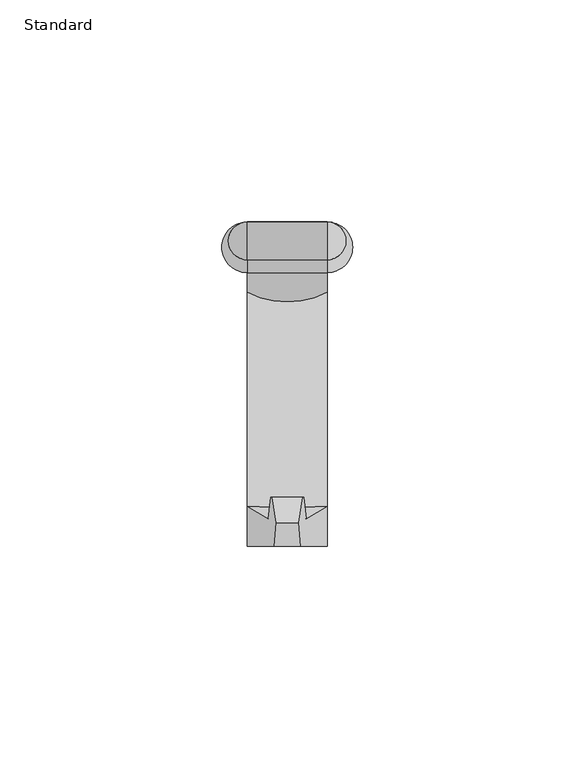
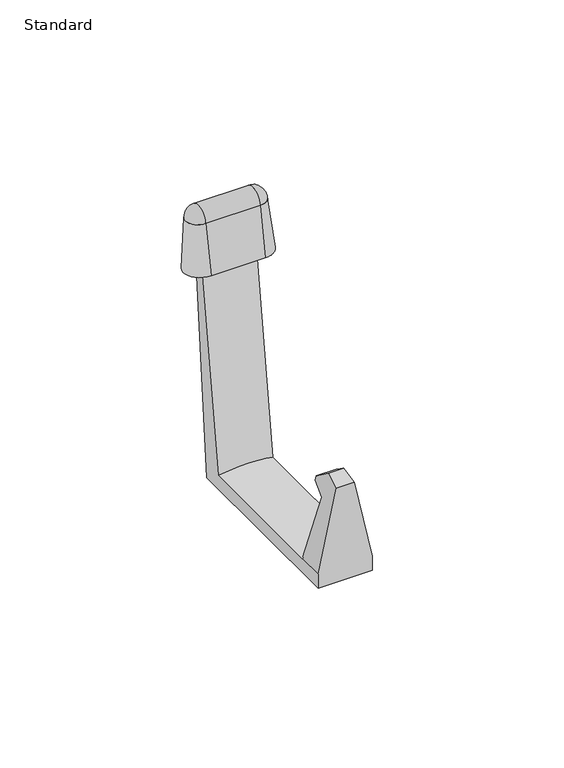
"""IFC4 building model written with IfcOpenShell, lengths in millimetres: furniture geometry, X_Partition-Robe Hook-Duracube-Door Stop : Standard."""

from ifc_helpers import new_model, si_unit, point, frame, origin, place, context, project, spatial, polyline, circle_curve, ellipse_curve, trimmed, source, transform, mapped, element, save
from ifc_brep_helpers import plane_surface, cylinder_surface, revolved_surface, advanced_brep


def standard_dd65e5c9(model_context):
    return source(origin(), model_context, "Body", "AdvancedBrep", [
        advanced_brep(
        [(9.0, 20.6732168, 5.0), (-9.0, 20.6732168, 5.0), (-9.0, -27.4995567, 5.0), (8.9985088, -27.4996746, 5.0008976), (-9.0, 32.2994412, 87.7248847), (9.0, 32.2994412, 87.7248847), (9.0, 35.1400061, 87.3256694), (-9.0, 35.1400061, 87.3256694), (9.0, 27.5, 0.0), (-9.0, 27.5, 0.0), (9.0, -36.5, 5.0033753), (9.0, -36.5, 0.0), (-9.0, -36.5, 0.0), (-9.0, -36.5, 5.0), (2.911861, -36.5, 33.0), (-2.9118145, -36.5, 33.0), (-4.3052364, -30.3351791, 26.5915532), (4.3054402, -30.3351791, 26.5915532), (-3.7029476, -25.5374517, 29.3615225), (3.7030834, -25.5374517, 29.3615225), (-3.3767948, -25.5374517, 30.8615225), (3.3768938, -25.5374517, 30.8615225), (-2.5, -31.2963756, 34.8939644), (2.5, -31.2963756, 34.8939644)],
        [
            (0, 1, ellipse_curve(frame((0.0, 33.6690536, -9.95), z_axis=(0.0, -0.7547095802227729, -0.6560590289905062), x_axis=(0.0, -0.6560590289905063, 0.7547095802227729)), 23.1214767, 17.45)),
            (1, 2),
            (2, 3, ellipse_curve(frame((0.0, -25.5361707, -9.95), z_axis=(0.0, 0.9914861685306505, 0.1302120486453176), x_axis=(0.0, -0.13021204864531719, 0.9914861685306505)), 17.5998421, 17.45)),
            (3, 0),
            (4, 5, circle_curve(frame((0.0, 47.1039488, 85.6442469), z_axis=(0.0, 0.13917310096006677, 0.9902680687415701), x_axis=(0.0, -0.9902680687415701, 0.13917310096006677)), 17.45)),
            (5, 6),
            (6, 7),
            (7, 4),
            (0, 5),
            (4, 1),
            (6, 8),
            (8, 9),
            (9, 7),
            (3, 10),
            (10, 11),
            (11, 8),
            (12, 13),
            (13, 2),
            (9, 12),
            (12, 11),
            (10, 14),
            (14, 15),
            (15, 13),
            (16, 17),
            (17, 3),
            (2, 16),
            (16, 18),
            (18, 19),
            (19, 17),
            (18, 20),
            (20, 21),
            (21, 19),
            (20, 22),
            (22, 23),
            (23, 21),
            (14, 23),
            (22, 15),
        ],
        [
            cylinder_surface(frame((0.0, -29.3271864, -9.95), z_axis=(0.0, -1.0, 0.0), x_axis=(0.0, 0.0, 1.0)), 17.45),
            plane_surface(frame((0.0, 29.823771, 88.0728175), z_axis=(0.0, 0.13917310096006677, 0.9902680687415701), x_axis=(1.0, 0.0, 0.0))),
            cylinder_surface(frame((0.0, 35.7801778, 5.0714294), z_axis=(0.0, -0.13917310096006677, -0.9902680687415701), x_axis=(0.0, -0.9902680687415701, 0.13917310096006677)), 17.45),
            plane_surface(frame((9.0, 27.5, 0.0), z_axis=(0.0, 0.9961946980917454, -0.08715574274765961), x_axis=(-1.0, 0.0, 0.0))),
            plane_surface(frame((9.0, -36.5, 0.0), z_axis=(1.0, 0.0, 0.0), x_axis=(0.0, 0.0, -1.0))),
            plane_surface(frame((-9.0, -36.5, 0.0), z_axis=(-1.0, 0.0, 0.0), x_axis=(0.0, 0.0, 1.0))),
            plane_surface(frame((9.0, -36.5, 33.0), z_axis=(0.0, -1.0, 0.0), x_axis=(-1.0, 0.0, 0.0))),
            plane_surface(frame((9.0, -36.5, 0.0), z_axis=(0.0, 0.0, -1.0), x_axis=(-1.0, 0.0, 0.0))),
            plane_surface(frame((9.0, -27.5, 5.0033753), z_axis=(0.0, 0.9914861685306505, 0.1302120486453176), x_axis=(-1.0, 0.0, 0.0))),
            plane_surface(frame((9.0, -30.3351791, 26.5915532), z_axis=(0.0, 0.49999999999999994, -0.8660254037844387), x_axis=(-1.0, 0.0, 0.0))),
            plane_surface(frame((9.0, -25.5374517, 29.3615225), z_axis=(0.0, 1.0, 0.0), x_axis=(-1.0, 0.0, 0.0))),
            plane_surface(frame((9.0, -25.5374517, 30.8615225), z_axis=(0.0, 0.5735764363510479, 0.8191520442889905), x_axis=(-1.0, 0.0, 0.0))),
            plane_surface(frame((9.0, -31.2963756, 34.8939644), z_axis=(0.0, -0.34202014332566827, 0.9396926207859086), x_axis=(-1.0, 0.0, 0.0))),
            plane_surface(frame((2.5, -43.6239531, 34.8939644), z_axis=(0.977162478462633, 0.0, 0.2124935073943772), x_axis=(0.0, 1.0, 0.0))),
            plane_surface(frame((-9.0, -43.6239531, 5.0), z_axis=(-0.9771674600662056, 0.0, 0.2124705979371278), x_axis=(0.0, 1.0, 0.0))),
        ],
        [
            (0, [[1, 2, 3, 4]]),
            (1, [[5, 6, 7, 8]]),
            (2, [[-1, 9, -5, 10]]),
            (3, [[11, 12, 13, -7]]),
            (4, [[-11, -6, -9, -4, 14, 15, 16]]),
            (5, [[17, 18, -2, -10, -8, -13, 19]]),
            (6, [[20, -15, 21, 22, 23, -17]]),
            (7, [[-16, -20, -19, -12]]),
            (8, [[24, 25, -3, 26]]),
            (9, [[-24, 27, 28, 29]]),
            (10, [[-28, 30, 31, 32]]),
            (11, [[-31, 33, 34, 35]]),
            (12, [[-22, 36, -34, 37]]),
            (13, [[-21, -14, -25, -29, -32, -35, -36]]),
            (14, [[-18, -23, -37, -33, -30, -27, -26]]),
        ],
    ),
        advanced_brep(
        [(-9.0, 36.4341465, 88.2239526), (9.0, 36.4341465, 88.2239526), (9.0, 28.0061564, 88.9421143), (-9.0, 28.0061564, 88.9421143)],
        [
            (0, 1),
            (1, 2, circle_curve(frame((9.0, 32.2201515, 88.5830334), z_axis=(0.0, -0.08490381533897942, -0.9963891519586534), x_axis=(0.0, 0.9963891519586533, -0.08490381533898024)), 4.2292663)),
            (2, 3),
            (3, 0, circle_curve(frame((-9.0, 32.2201515, 88.5830334), z_axis=(0.0, -0.0849038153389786, -0.9963891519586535), x_axis=(0.0, 0.9963891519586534, -0.08490381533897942)), 4.2292663)),
            (0, 3, circle_curve(frame((-9.0, 32.2201515, 88.5830334), z_axis=(1.0, 0.0, 0.0), x_axis=(0.0, -0.9963891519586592, 0.08490381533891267)), 4.2292663)),
            (2, 1, circle_curve(frame((9.0, 32.2201515, 88.5830334), z_axis=(-1.0, 0.0, 0.0), x_axis=(0.0, -0.9963891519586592, 0.08490381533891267)), 4.2292663)),
        ],
        [
            plane_surface(frame((-9.0, 36.4341465, 88.2239526), z_axis=(0.0, -0.08490381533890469, -0.9963891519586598), x_axis=(1.0, 0.0, 0.0))),
            cylinder_surface(frame((9.0, 32.2201515, 88.5830334), z_axis=(-1.0000000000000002, 0.0, 0.0), x_axis=(0.0, -0.9963891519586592, 0.08490381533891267)), 4.2292663),
            revolved_surface(trimmed(ellipse_curve(frame((-9.0, 32.2201515, 88.5830334), z_axis=(0.0, -0.0849038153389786, -0.9963891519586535), x_axis=(0.0, 0.9963891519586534, -0.08490381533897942)), 4.2292663, 4.2292663), [point((-9.0, 28.0061564, 88.9421143))], [point((-9.0, 36.4341465, 88.2239526))], True, "CARTESIAN"), (-9.0, 36.4341465, 88.2239526), (0.0, 0.9963891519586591, -0.08490381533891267)),
            revolved_surface(trimmed(ellipse_curve(frame((9.0, 32.2201515, 88.5830334), z_axis=(0.0, -0.08490381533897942, -0.9963891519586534), x_axis=(0.0, 0.9963891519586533, -0.08490381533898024)), 4.2292663, 4.2292663), [point((9.0, 36.4341465, 88.2239526))], [point((9.0, 28.0061564, 88.9421143))], True, "CARTESIAN"), (9.0, 36.4341465, 88.2239526), (0.0, -0.9963891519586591, 0.08490381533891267)),
        ],
        [
            (0, [[1, 2, 3, 4]]),
            (1, [[-1, 5, -3, 6]]),
            (2, [[-4, -5]]),
            (3, [[-2, -6]]),
        ],
    ),
        advanced_brep(
        [(9.0, 36.4341465, 88.2239526), (-9.0, 36.4341465, 88.2239526), (-9.0, 28.0061564, 88.9421143), (9.0, 28.0061564, 88.9421143), (9.0, 36.5, 71.3297259), (9.0, 25.0828424, 72.302599), (-9.0, 25.0828424, 72.302599), (-9.0, 36.5, 71.3297259)],
        [
            (0, 1),
            (1, 2, circle_curve(frame((-9.0, 32.2201515, 88.5830334), z_axis=(0.0, 0.08490381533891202, 0.9963891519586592), x_axis=(0.0, 0.9963891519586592, -0.08490381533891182)), 4.2292663)),
            (2, 3),
            (3, 0, circle_curve(frame((9.0, 32.2201515, 88.5830334), z_axis=(0.0, 0.08490381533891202, 0.9963891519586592), x_axis=(0.0, -0.996389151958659, 0.08490381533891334)), 4.2292663)),
            (4, 5, circle_curve(frame((9.0, 30.7914212, 71.8161624), z_axis=(0.0, -0.08490381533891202, -0.9963891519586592), x_axis=(0.0, -0.996389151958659, 0.08490381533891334)), 5.7292663)),
            (5, 6),
            (6, 7, circle_curve(frame((-9.0, 30.7914212, 71.8161624), z_axis=(0.0, -0.08490381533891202, -0.9963891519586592), x_axis=(0.0, 0.9963891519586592, -0.08490381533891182)), 5.7292663)),
            (7, 4),
            (7, 1),
            (0, 4),
            (6, 2),
            (5, 3),
        ],
        [
            plane_surface(frame((0.0, 32.2201515, 88.5830334), z_axis=(0.0, 0.08490381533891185, 0.9963891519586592), x_axis=(1.0, 0.0, 0.0))),
            plane_surface(frame((0.0, 30.7914212, 71.8161624), z_axis=(0.0, -0.08490381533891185, -0.9963891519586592), x_axis=(1.0, 0.0, 0.0))),
            plane_surface(frame((0.0, 36.5, 71.3297259), z_axis=(0.0, 0.9999924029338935, 0.0038979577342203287), x_axis=(-1.0, 0.0, 0.0))),
            revolved_surface(polyline([(-9.0, 36.43414651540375, 88.2239526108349), (-9.0, 36.50000000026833, 71.32972583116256)]), (-9.0, 36.2484719, 135.8574084), (0.0, -0.08490381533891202, -0.9963891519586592)),
            plane_surface(frame((0.0, 25.0828424, 72.302599), z_axis=(0.0, -0.9849156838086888, 0.1730349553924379), x_axis=(1.0, 0.0, 0.0))),
            revolved_surface(polyline([(9.0, 28.006156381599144, 88.94211430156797), (9.0, 25.082842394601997, 72.30259896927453)]), (9.0, 36.2484719, 135.8574084), (0.0, -0.08490381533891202, -0.9963891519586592)),
        ],
        [
            (0, [[1, 2, 3, 4]]),
            (1, [[5, 6, 7, 8]]),
            (2, [[-8, 9, -1, 10]]),
            (3, [[-7, 11, -2, -9]]),
            (4, [[-6, 12, -3, -11]]),
            (5, [[-5, -10, -4, -12]]),
        ],
    ),
    ])


if __name__ == "__main__":
    model = new_model("IFC4")
    model_context = context("Model", 3, world=origin())
    ifc_project = project(units=[si_unit("LENGTHUNIT", "METRE", prefix="MILLI")], contexts=[model_context])
    site = spatial("IfcSite", under=ifc_project)
    building = spatial("IfcBuilding", under=site)
    placement = place(None, origin())
    standard_shape = standard_dd65e5c9(model_context)
    element("IfcFurniture", 1, ObjectType="X_Partition-Robe Hook-Duracube-Door Stop : Standard", at=placement, inside=building, context=model_context, shape_type="MappedRepresentation", body=[
        mapped(standard_shape, transform((0.0, 0.0, 0.0), x_axis=(1.0, 0.0, 0.0), y_axis=(0.0, 1.0, 0.0), z_axis=(0.0, 0.0, 1.0))),
    ])
    save(model, "model.ifc")
